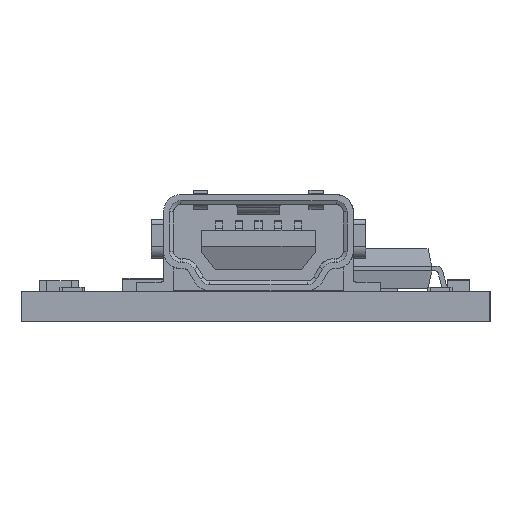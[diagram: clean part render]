
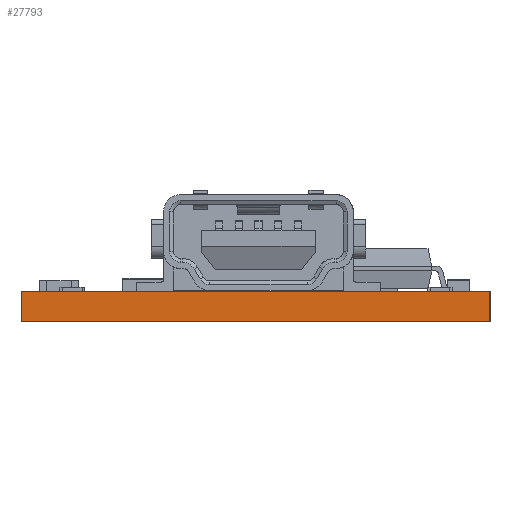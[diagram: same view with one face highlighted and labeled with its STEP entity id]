
A CAD part, left-side view. The second image highlights one B-rep face of the part: STEP entity #27793.
In plain terms, the highlighted planar face has unit normal (-1, 0, 0).
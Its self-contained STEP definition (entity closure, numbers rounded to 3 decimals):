
#344 = LINE ( 'NONE', #35405, #33635 ) ;
#2084 = ORIENTED_EDGE ( 'NONE', *, *, #11074, .F. ) ;
#3762 = CARTESIAN_POINT ( 'NONE',  ( 0., 19., 0. ) ) ;
#5314 = VERTEX_POINT ( 'NONE', #10090 ) ;
#6254 = ORIENTED_EDGE ( 'NONE', *, *, #21376, .F. ) ;
#7152 = DIRECTION ( 'NONE',  ( 1., 0., 0. ) ) ;
#7338 = LINE ( 'NONE', #3762, #24269 ) ;
#8299 = CARTESIAN_POINT ( 'NONE',  ( 0., 0., 1.22 ) ) ;
#9120 = LINE ( 'NONE', #33109, #26061 ) ;
#10090 = CARTESIAN_POINT ( 'NONE',  ( 0., 19., 0. ) ) ;
#11074 = EDGE_CURVE ( 'NONE', #46869, #24018, #344, .T. ) ;
#12365 = EDGE_CURVE ( 'NONE', #28569, #46869, #9120, .T. ) ;
#13323 = CARTESIAN_POINT ( 'NONE',  ( 0., 19., 1.22 ) ) ;
#15719 = CARTESIAN_POINT ( 'NONE',  ( 0., 19., 0. ) ) ;
#17485 = DIRECTION ( 'NONE',  ( 0., -1., 0. ) ) ;
#17936 = EDGE_LOOP ( 'NONE', ( #6254, #2084, #35497, #27795 ) ) ;
#20586 = DIRECTION ( 'NONE',  ( 0., 0., -1. ) ) ;
#20850 = EDGE_CURVE ( 'NONE', #5314, #28569, #7338, .T. ) ;
#21376 = EDGE_CURVE ( 'NONE', #24018, #5314, #27338, .T. ) ;
#23427 = CARTESIAN_POINT ( 'NONE',  ( 0., 19., 0. ) ) ;
#23486 = DIRECTION ( 'NONE',  ( 0., 0., 1. ) ) ;
#24018 = VERTEX_POINT ( 'NONE', #41296 ) ;
#24269 = VECTOR ( 'NONE', #23486, 1000. ) ;
#26061 = VECTOR ( 'NONE', #17485, 1000. ) ;
#27338 = LINE ( 'NONE', #23427, #38372 ) ;
#27793 = ADVANCED_FACE ( 'NONE', ( #43322 ), #31064, .F. ) ;
#27795 = ORIENTED_EDGE ( 'NONE', *, *, #20850, .F. ) ;
#28569 = VERTEX_POINT ( 'NONE', #13323 ) ;
#31064 = PLANE ( 'NONE',  #44972 ) ;
#31580 = DIRECTION ( 'NONE',  ( 0., 0., -1. ) ) ;
#33109 = CARTESIAN_POINT ( 'NONE',  ( 0., 19., 1.22 ) ) ;
#33635 = VECTOR ( 'NONE', #20586, 1000. ) ;
#35405 = CARTESIAN_POINT ( 'NONE',  ( 0., 0., 0. ) ) ;
#35497 = ORIENTED_EDGE ( 'NONE', *, *, #12365, .F. ) ;
#38372 = VECTOR ( 'NONE', #39253, 1000. ) ;
#39253 = DIRECTION ( 'NONE',  ( 0., 1., 0. ) ) ;
#41296 = CARTESIAN_POINT ( 'NONE',  ( 0., 0., 0. ) ) ;
#43322 = FACE_OUTER_BOUND ( 'NONE', #17936, .T. ) ;
#44972 = AXIS2_PLACEMENT_3D ( 'NONE', #15719, #7152, #31580 ) ;
#46869 = VERTEX_POINT ( 'NONE', #8299 ) ;
